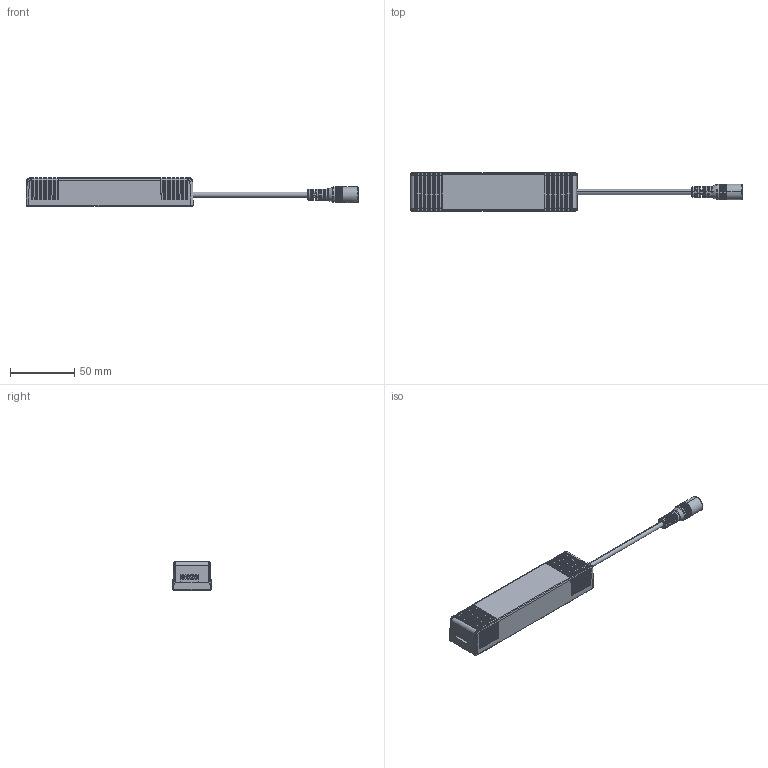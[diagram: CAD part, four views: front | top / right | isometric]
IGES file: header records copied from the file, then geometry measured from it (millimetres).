
Start section: SolidWorks IGES file using analytic representation for surfaces
Global section: file name: D:\Customer drawings\IT DALI 15W 220-240 350 CS J - 350mA_D30091744_Andy Xu\9C1-4554639-EN-00.IGS; native system: SolidWorks 2023; preprocessor: SolidWorks 2023; author: b.ye; date: 260121.164607; units: millimetre
Bounding box: 258.15 x 29.96 x 22.2 mm (x, y, z)
Surface area: 32338.8 mm2 (no closed solid volume)
Topology: 0 solids, 0 shells, 2002 faces, 16016 edges, 15983 vertices
Faces by surface type: bspline 1535, revolution 467
